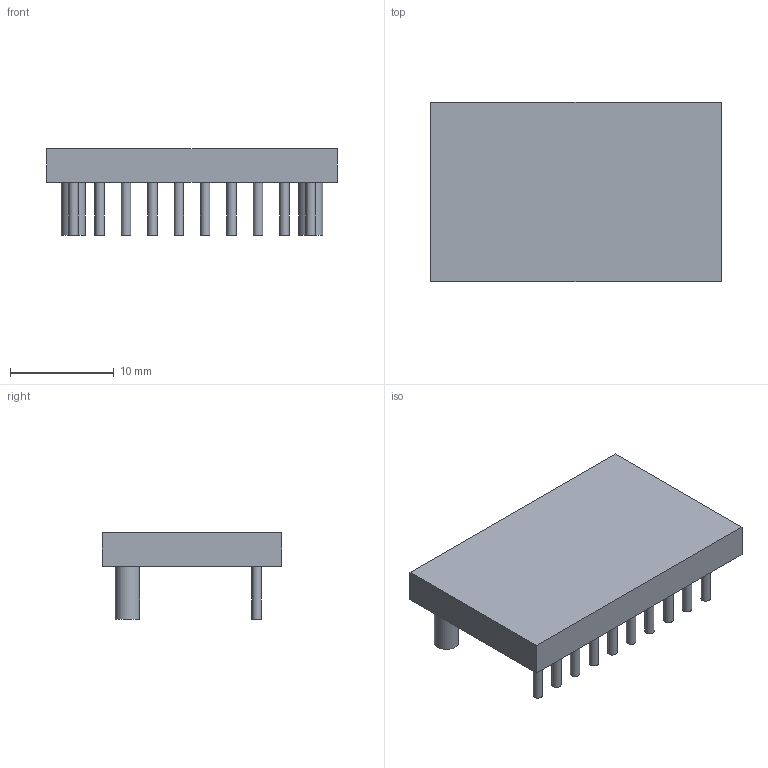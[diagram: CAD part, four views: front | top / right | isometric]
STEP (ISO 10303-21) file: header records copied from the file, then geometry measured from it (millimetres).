
FILE_DESCRIPTION(('FreeCAD Model'),'2;1');
FILE_NAME('/var/www/3D/0T/678193.1.4.stp','2020-04-08T07:45:36',( 'Author'),(''),'Open CASCADE STEP processor 6.9','FreeCAD','Unknown' );
FILE_SCHEMA(('AUTOMOTIVE_DESIGN { 1 0 10303 214 1 1 1 1 }'));
Length unit declared in the file: millimetre
Products named in the file (3): ASSEMBLY; Body; Leads
Assembly tree (13 placements, depth 2):
  ASSEMBLY
    Body
    Leads  x12
Bounding box: 27.94 x 17.27 x 8.35 mm (x, y, z)
Volume: 2492.8 mm3; surface area: 4271 mm2
Topology: 145 solids, 145 shells, 438 faces, 444 edges, 296 vertices
Faces by surface type: plane 294, cylinder 144
Full cylindrical faces by diameter (mm): 0.91 x120, 2.34 x24
Entity records: 1671 total; most frequent: DIRECTION 280, CARTESIAN_POINT 232, ORIENTED_EDGE 96, LINE 96, VECTOR 96, PCURVE 96, DEFINITIONAL_REPRESENTATION 96, AXIS2_PLACEMENT_3D 80
